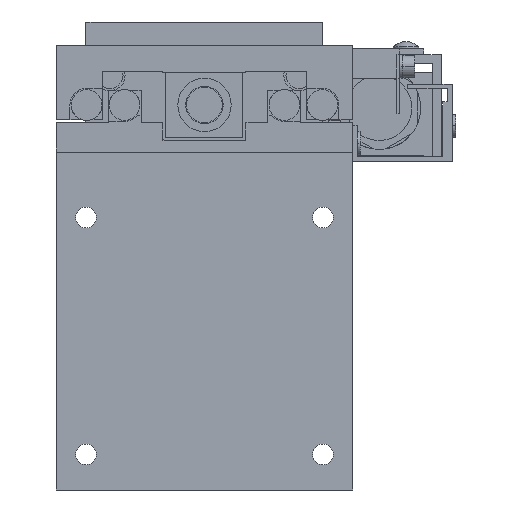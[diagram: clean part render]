
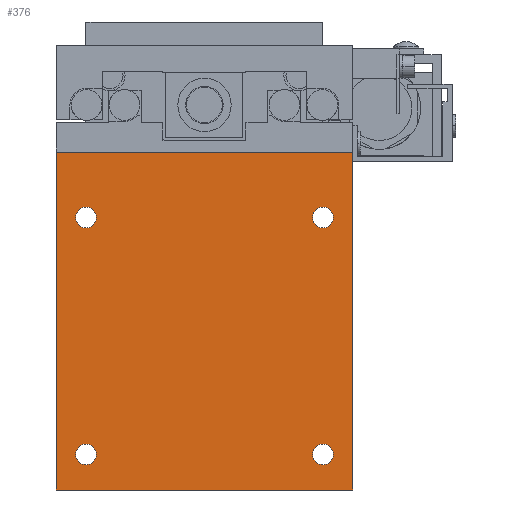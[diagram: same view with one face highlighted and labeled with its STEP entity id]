
A CAD part, front view. The second image highlights one B-rep face of the part: STEP entity #376.
In plain terms, the highlighted planar face has unit normal (0, -1, 0).
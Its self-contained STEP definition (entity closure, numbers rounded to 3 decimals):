
#376=ADVANCED_FACE('',(#1114,#1115,#1116,#1117,#1118),#1119,.F.);
#1114=FACE_BOUND('',#2682,.T.);
#1115=FACE_BOUND('',#2683,.T.);
#1116=FACE_BOUND('',#2684,.T.);
#1117=FACE_BOUND('',#2685,.T.);
#1118=FACE_OUTER_BOUND('',#2686,.T.);
#1119=PLANE('',#2687);
#2682=EDGE_LOOP('',(#4315,#4316));
#2683=EDGE_LOOP('',(#4317,#4318));
#2684=EDGE_LOOP('',(#4319,#4320));
#2685=EDGE_LOOP('',(#4321,#4322));
#2686=EDGE_LOOP('',(#4323,#4324,#4325,#4326));
#2687=AXIS2_PLACEMENT_3D('',#4327,#4328,#4329);
#4315=ORIENTED_EDGE('',*,*,#10156,.F.);
#4316=ORIENTED_EDGE('',*,*,#10107,.F.);
#4317=ORIENTED_EDGE('',*,*,#10157,.F.);
#4318=ORIENTED_EDGE('',*,*,#10139,.F.);
#4319=ORIENTED_EDGE('',*,*,#10158,.F.);
#4320=ORIENTED_EDGE('',*,*,#10147,.F.);
#4321=ORIENTED_EDGE('',*,*,#10159,.F.);
#4322=ORIENTED_EDGE('',*,*,#10143,.F.);
#4323=ORIENTED_EDGE('',*,*,#10160,.T.);
#4324=ORIENTED_EDGE('',*,*,#10161,.F.);
#4325=ORIENTED_EDGE('',*,*,#10162,.F.);
#4326=ORIENTED_EDGE('',*,*,#10153,.T.);
#4327=CARTESIAN_POINT('',(-25.0,0.0,-26.5));
#4328=DIRECTION('',(0.0,1.0,0.0));
#4329=DIRECTION('',(-1.0,0.0,0.0));
#10107=EDGE_CURVE('',#11963,#11959,#11965,.T.);
#10139=EDGE_CURVE('',#12027,#12023,#12029,.T.);
#10143=EDGE_CURVE('',#12035,#12031,#12037,.T.);
#10147=EDGE_CURVE('',#12043,#12039,#12045,.T.);
#10153=EDGE_CURVE('',#12057,#12055,#12058,.T.);
#10156=EDGE_CURVE('',#11959,#11963,#12062,.T.);
#10157=EDGE_CURVE('',#12023,#12027,#12063,.T.);
#10158=EDGE_CURVE('',#12039,#12043,#12064,.T.);
#10159=EDGE_CURVE('',#12031,#12035,#12065,.T.);
#10160=EDGE_CURVE('',#12055,#12066,#12067,.T.);
#10161=EDGE_CURVE('',#12068,#12066,#12069,.T.);
#10162=EDGE_CURVE('',#12057,#12068,#12070,.T.);
#11959=VERTEX_POINT('',#15005);
#11963=VERTEX_POINT('',#15010);
#11965=CIRCLE('',#15013,1.75);
#12023=VERTEX_POINT('',#15085);
#12027=VERTEX_POINT('',#15090);
#12029=CIRCLE('',#15093,1.75);
#12031=VERTEX_POINT('',#15095);
#12035=VERTEX_POINT('',#15100);
#12037=CIRCLE('',#15103,1.75);
#12039=VERTEX_POINT('',#15105);
#12043=VERTEX_POINT('',#15110);
#12045=CIRCLE('',#15113,1.75);
#12055=VERTEX_POINT('',#15125);
#12057=VERTEX_POINT('',#15128);
#12058=LINE('',#15129,#15130);
#12062=CIRCLE('',#15136,1.75);
#12063=CIRCLE('',#15137,1.75);
#12064=CIRCLE('',#15138,1.75);
#12065=CIRCLE('',#15139,1.75);
#12066=VERTEX_POINT('',#15140);
#12067=LINE('',#15141,#15142);
#12068=VERTEX_POINT('',#15143);
#12069=LINE('',#15144,#15145);
#12070=LINE('',#15146,#15147);
#15005=CARTESIAN_POINT('',(20.0,0.0,21.25));
#15010=CARTESIAN_POINT('',(20.0,0.0,17.75));
#15013=AXIS2_PLACEMENT_3D('',#19327,#19328,#19329);
#15085=CARTESIAN_POINT('',(-20.0,0.0,-18.75));
#15090=CARTESIAN_POINT('',(-20.0,0.0,-22.25));
#15093=AXIS2_PLACEMENT_3D('',#19391,#19392,#19393);
#15095=CARTESIAN_POINT('',(-20.0,0.0,21.25));
#15100=CARTESIAN_POINT('',(-20.0,0.0,17.75));
#15103=AXIS2_PLACEMENT_3D('',#19399,#19400,#19401);
#15105=CARTESIAN_POINT('',(20.0,0.0,-18.75));
#15110=CARTESIAN_POINT('',(20.0,0.0,-22.25));
#15113=AXIS2_PLACEMENT_3D('',#19407,#19408,#19409);
#15125=CARTESIAN_POINT('',(25.0,0.0,-26.5));
#15128=CARTESIAN_POINT('',(-25.0,0.0,-26.5));
#15129=CARTESIAN_POINT('',(-25.0,0.0,-26.5));
#15130=VECTOR('',#19419,1000.0);
#15136=AXIS2_PLACEMENT_3D('',#19422,#19423,#19424);
#15137=AXIS2_PLACEMENT_3D('',#19425,#19426,#19427);
#15138=AXIS2_PLACEMENT_3D('',#19428,#19429,#19430);
#15139=AXIS2_PLACEMENT_3D('',#19431,#19432,#19433);
#15140=CARTESIAN_POINT('',(25.0,0.0,30.5));
#15141=CARTESIAN_POINT('',(25.0,0.0,-26.5));
#15142=VECTOR('',#19434,1000.0);
#15143=CARTESIAN_POINT('',(-25.0,0.0,30.5));
#15144=CARTESIAN_POINT('',(-25.0,0.0,30.5));
#15145=VECTOR('',#19435,1000.0);
#15146=CARTESIAN_POINT('',(-25.0,0.0,-26.5));
#15147=VECTOR('',#19436,1000.0);
#19327=CARTESIAN_POINT('',(20.0,0.0,19.5));
#19328=DIRECTION('',(0.0,-1.0,0.0));
#19329=DIRECTION('',(0.0,0.0,1.0));
#19391=CARTESIAN_POINT('',(-20.0,0.0,-20.5));
#19392=DIRECTION('',(0.0,-1.0,0.0));
#19393=DIRECTION('',(0.0,0.0,1.0));
#19399=CARTESIAN_POINT('',(-20.0,0.0,19.5));
#19400=DIRECTION('',(0.0,-1.0,0.0));
#19401=DIRECTION('',(0.0,0.0,1.0));
#19407=CARTESIAN_POINT('',(20.0,0.0,-20.5));
#19408=DIRECTION('',(0.0,-1.0,0.0));
#19409=DIRECTION('',(0.0,0.0,1.0));
#19419=DIRECTION('',(1.0,0.0,0.0));
#19422=CARTESIAN_POINT('',(20.0,0.0,19.5));
#19423=DIRECTION('',(0.0,-1.0,0.0));
#19424=DIRECTION('',(0.0,0.0,1.0));
#19425=CARTESIAN_POINT('',(-20.0,0.0,-20.5));
#19426=DIRECTION('',(0.0,-1.0,0.0));
#19427=DIRECTION('',(0.0,0.0,1.0));
#19428=CARTESIAN_POINT('',(20.0,0.0,-20.5));
#19429=DIRECTION('',(0.0,-1.0,0.0));
#19430=DIRECTION('',(0.0,0.0,1.0));
#19431=CARTESIAN_POINT('',(-20.0,0.0,19.5));
#19432=DIRECTION('',(0.0,-1.0,0.0));
#19433=DIRECTION('',(0.0,0.0,1.0));
#19434=DIRECTION('',(0.0,0.0,1.0));
#19435=DIRECTION('',(1.0,0.0,0.0));
#19436=DIRECTION('',(0.0,0.0,1.0));
